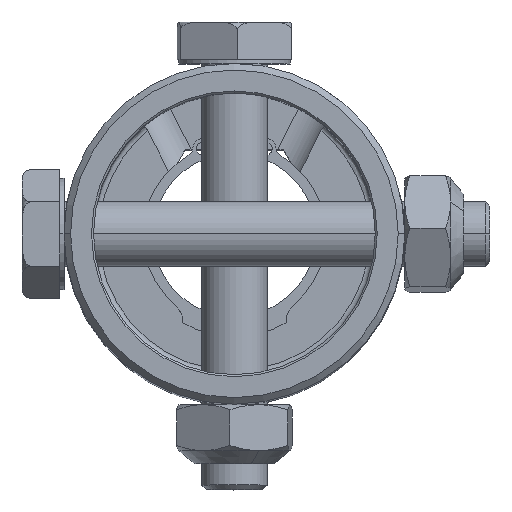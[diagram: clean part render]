
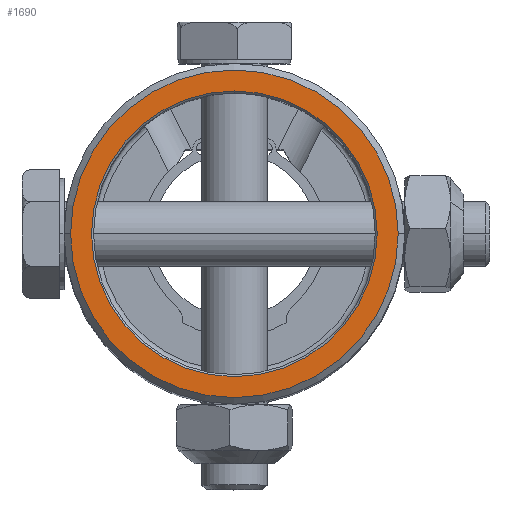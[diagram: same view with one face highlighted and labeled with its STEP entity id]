
A CAD part, top view. The second image highlights one B-rep face of the part: STEP entity #1690.
In plain terms, the highlighted planar face has unit normal (0, 0, 1).
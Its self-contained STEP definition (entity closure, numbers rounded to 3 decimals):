
#301 = DIRECTION ( 'NONE',  ( 1., 0., 0. ) ) ;
#309 = DIRECTION ( 'NONE',  ( 0., 0., 1. ) ) ;
#347 = PLANE ( 'NONE',  #2321 ) ;
#370 = CARTESIAN_POINT ( 'NONE',  ( 0., 0., 132. ) ) ;
#433 = DIRECTION ( 'NONE',  ( 0., 0., -1. ) ) ;
#507 = AXIS2_PLACEMENT_3D ( 'NONE', #2424, #2419, #2409 ) ;
#539 = CARTESIAN_POINT ( 'NONE',  ( 0., 0., 132. ) ) ;
#744 = AXIS2_PLACEMENT_3D ( 'NONE', #539, #433, #7412 ) ;
#866 = CARTESIAN_POINT ( 'NONE',  ( 25., 0., 132. ) ) ;
#936 = VERTEX_POINT ( 'NONE', #3285 ) ;
#1098 = EDGE_CURVE ( 'NONE', #7442, #6735, #2015, .T. ) ;
#1562 = CIRCLE ( 'NONE', #744, 21.8 ) ;
#1682 = CIRCLE ( 'NONE', #7227, 25. ) ;
#1690 = ADVANCED_FACE ( 'NONE', ( #2238, #2246 ), #347, .T. ) ;
#1990 = EDGE_CURVE ( 'NONE', #4047, #936, #3912, .T. ) ;
#2015 = CIRCLE ( 'NONE', #507, 21.8 ) ;
#2238 = FACE_OUTER_BOUND ( 'NONE', #6270, .T. ) ;
#2246 = FACE_BOUND ( 'NONE', #6268, .T. ) ;
#2321 = AXIS2_PLACEMENT_3D ( 'NONE', #370, #309, #301 ) ;
#2409 = DIRECTION ( 'NONE',  ( 1., 0., 0. ) ) ;
#2419 = DIRECTION ( 'NONE',  ( 0., 0., -1. ) ) ;
#2424 = CARTESIAN_POINT ( 'NONE',  ( 0., 0., 132. ) ) ;
#2666 = CARTESIAN_POINT ( 'NONE',  ( -21.8, 0., 132. ) ) ;
#3054 = DIRECTION ( 'NONE',  ( 0., 0., 1. ) ) ;
#3084 = CARTESIAN_POINT ( 'NONE',  ( 0., 0., 132. ) ) ;
#3110 = DIRECTION ( 'NONE',  ( 1., 0., 0. ) ) ;
#3134 = EDGE_CURVE ( 'NONE', #6735, #7442, #1562, .T. ) ;
#3285 = CARTESIAN_POINT ( 'NONE',  ( -25., 0., 132. ) ) ;
#3504 = AXIS2_PLACEMENT_3D ( 'NONE', #6621, #6638, #6589 ) ;
#3912 = CIRCLE ( 'NONE', #3504, 25. ) ;
#4047 = VERTEX_POINT ( 'NONE', #866 ) ;
#4085 = CARTESIAN_POINT ( 'NONE',  ( 21.8, 0., 132. ) ) ;
#4468 = ORIENTED_EDGE ( 'NONE', *, *, #1990, .T. ) ;
#5083 = EDGE_CURVE ( 'NONE', #936, #4047, #1682, .T. ) ;
#5961 = ORIENTED_EDGE ( 'NONE', *, *, #1098, .T. ) ;
#6268 = EDGE_LOOP ( 'NONE', ( #5961, #6899 ) ) ;
#6270 = EDGE_LOOP ( 'NONE', ( #7027, #4468 ) ) ;
#6589 = DIRECTION ( 'NONE',  ( 1., 0., 0. ) ) ;
#6621 = CARTESIAN_POINT ( 'NONE',  ( 0., 0., 132. ) ) ;
#6638 = DIRECTION ( 'NONE',  ( 0., 0., 1. ) ) ;
#6735 = VERTEX_POINT ( 'NONE', #2666 ) ;
#6899 = ORIENTED_EDGE ( 'NONE', *, *, #3134, .T. ) ;
#7027 = ORIENTED_EDGE ( 'NONE', *, *, #5083, .T. ) ;
#7227 = AXIS2_PLACEMENT_3D ( 'NONE', #3084, #3054, #3110 ) ;
#7412 = DIRECTION ( 'NONE',  ( 1., 0., 0. ) ) ;
#7442 = VERTEX_POINT ( 'NONE', #4085 ) ;
